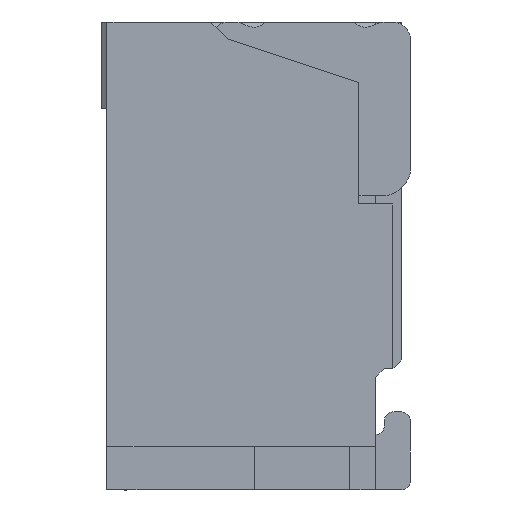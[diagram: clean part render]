
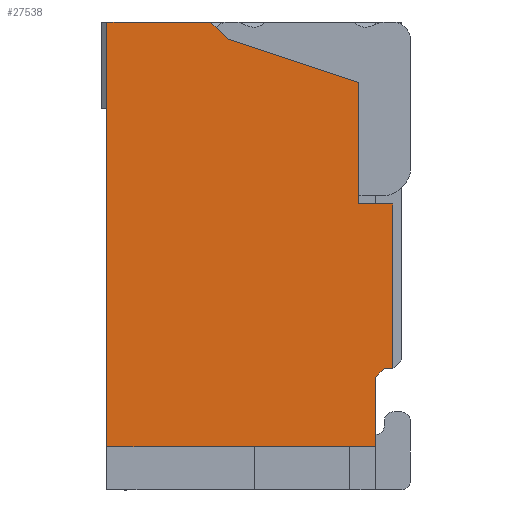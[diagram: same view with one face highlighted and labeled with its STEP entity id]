
A CAD part, left-side view. The second image highlights one B-rep face of the part: STEP entity #27538.
In plain terms, the highlighted planar face has unit normal (-1, 0, 0).
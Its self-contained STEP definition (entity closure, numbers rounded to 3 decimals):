
#489=DIRECTION('',(0.,0.,1.));
#490=VECTOR('',#489,2.45);
#491=CARTESIAN_POINT('',(-6.5,1.7,0.25));
#492=LINE('',#491,#490);
#1089=DIRECTION('',(0.,1.,0.));
#1090=VECTOR('',#1089,0.6);
#1091=CARTESIAN_POINT('',(-6.5,1.1,2.7));
#1092=LINE('',#1091,#1090);
#1093=DIRECTION('',(0.,0.707,0.707));
#1094=VECTOR('',#1093,0.141);
#1095=CARTESIAN_POINT('',(-6.5,1.,2.6));
#1096=LINE('',#1095,#1094);
#1097=DIRECTION('',(0.,0.949,0.316));
#1098=VECTOR('',#1097,0.791);
#1099=CARTESIAN_POINT('',(-6.5,0.25,2.35));
#1100=LINE('',#1099,#1098);
#1101=DIRECTION('',(0.,0.,1.));
#1102=VECTOR('',#1101,0.7);
#1103=CARTESIAN_POINT('',(-6.5,0.25,1.65));
#1104=LINE('',#1103,#1102);
#1105=DIRECTION('',(0.,1.,0.));
#1106=VECTOR('',#1105,0.2);
#1107=CARTESIAN_POINT('',(-6.5,0.05,1.65));
#1108=LINE('',#1107,#1106);
#1109=DIRECTION('',(0.,0.,1.));
#1110=VECTOR('',#1109,0.95);
#1111=CARTESIAN_POINT('',(-6.5,0.05,0.7));
#1112=LINE('',#1111,#1110);
#1113=DIRECTION('',(0.,-1.,0.));
#1114=VECTOR('',#1113,0.05);
#1115=CARTESIAN_POINT('',(-6.5,0.1,0.7));
#1116=LINE('',#1115,#1114);
#1117=DIRECTION('',(0.,-0.707,0.707));
#1118=VECTOR('',#1117,0.071);
#1119=CARTESIAN_POINT('',(-6.5,0.15,0.65));
#1120=LINE('',#1119,#1118);
#1121=DIRECTION('',(0.,0.,1.));
#1122=VECTOR('',#1121,0.4);
#1123=CARTESIAN_POINT('',(-6.5,0.15,0.25));
#1124=LINE('',#1123,#1122);
#2457=DIRECTION('',(0.,1.,0.));
#2458=VECTOR('',#2457,1.55);
#2459=CARTESIAN_POINT('',(-6.5,0.15,0.25));
#2460=LINE('',#2459,#2458);
#20653=CARTESIAN_POINT('',(-6.5,0.05,1.65));
#20654=VERTEX_POINT('',#20653);
#20655=CARTESIAN_POINT('',(-6.5,0.25,1.65));
#20656=VERTEX_POINT('',#20655);
#20681=CARTESIAN_POINT('',(-6.5,1.,2.6));
#20682=CARTESIAN_POINT('',(-6.5,1.1,2.7));
#20683=VERTEX_POINT('',#20681);
#20684=VERTEX_POINT('',#20682);
#20685=CARTESIAN_POINT('',(-6.5,0.25,2.35));
#20686=VERTEX_POINT('',#20685);
#20687=CARTESIAN_POINT('',(-6.5,0.05,0.7));
#20688=VERTEX_POINT('',#20687);
#20689=CARTESIAN_POINT('',(-6.5,0.1,0.7));
#20690=VERTEX_POINT('',#20689);
#20691=CARTESIAN_POINT('',(-6.5,0.15,0.65));
#20692=VERTEX_POINT('',#20691);
#20693=CARTESIAN_POINT('',(-6.5,0.15,0.25));
#20694=VERTEX_POINT('',#20693);
#20695=CARTESIAN_POINT('',(-6.5,1.7,0.25));
#20696=VERTEX_POINT('',#20695);
#20697=CARTESIAN_POINT('',(-6.5,1.7,2.7));
#20698=VERTEX_POINT('',#20697);
#27515=CARTESIAN_POINT('',(-6.5,0.049,2.701));
#27516=DIRECTION('',(-1.,0.,0.));
#27517=DIRECTION('',(0.,1.,0.));
#27518=AXIS2_PLACEMENT_3D('',#27515,#27516,#27517);
#27519=PLANE('',#27518);
#27520=ORIENTED_EDGE('',*,*,#26839,.F.);
#27522=ORIENTED_EDGE('',*,*,#27521,.F.);
#27524=ORIENTED_EDGE('',*,*,#27523,.F.);
#27525=ORIENTED_EDGE('',*,*,#26652,.F.);
#27526=ORIENTED_EDGE('',*,*,#26677,.F.);
#27528=ORIENTED_EDGE('',*,*,#27527,.F.);
#27530=ORIENTED_EDGE('',*,*,#27529,.F.);
#27531=ORIENTED_EDGE('',*,*,#27506,.F.);
#27532=ORIENTED_EDGE('',*,*,#27495,.F.);
#27534=ORIENTED_EDGE('',*,*,#27533,.T.);
#27535=ORIENTED_EDGE('',*,*,#26977,.T.);
#27536=EDGE_LOOP('',(#27520,#27522,#27524,#27525,#27526,#27528,#27530,#27531,
#27532,#27534,#27535));
#27537=FACE_OUTER_BOUND('',#27536,.F.);
#27538=ADVANCED_FACE('',(#27537),#27519,.T.);
#26652=EDGE_CURVE('',#20656,#20686,#1104,.T.);
#26677=EDGE_CURVE('',#20654,#20656,#1108,.T.);
#26839=EDGE_CURVE('',#20684,#20698,#1092,.T.);
#26977=EDGE_CURVE('',#20696,#20698,#492,.T.);
#27495=EDGE_CURVE('',#20694,#20692,#1124,.T.);
#27506=EDGE_CURVE('',#20692,#20690,#1120,.T.);
#27521=EDGE_CURVE('',#20683,#20684,#1096,.T.);
#27523=EDGE_CURVE('',#20686,#20683,#1100,.T.);
#27527=EDGE_CURVE('',#20688,#20654,#1112,.T.);
#27529=EDGE_CURVE('',#20690,#20688,#1116,.T.);
#27533=EDGE_CURVE('',#20694,#20696,#2460,.T.);
